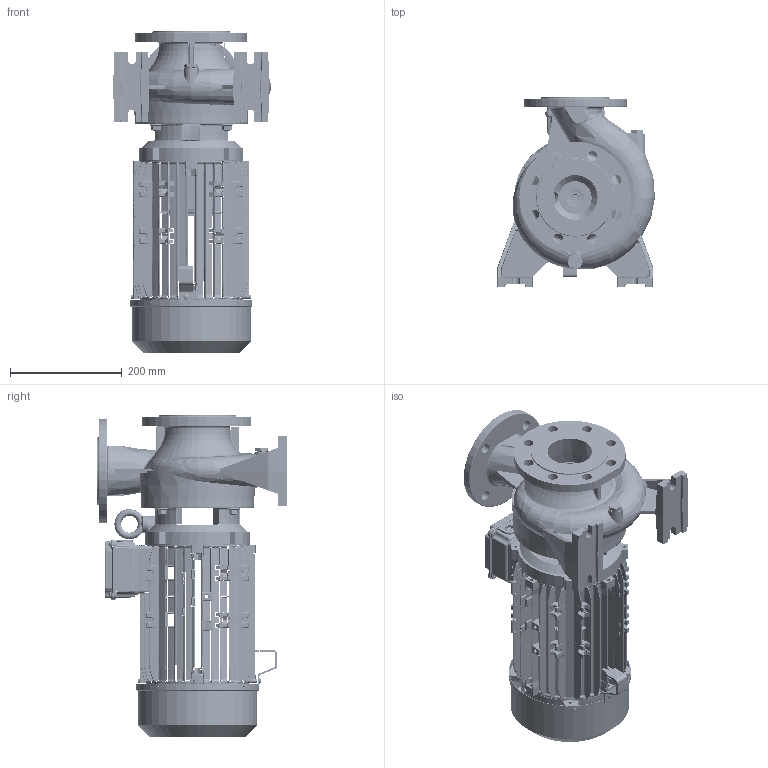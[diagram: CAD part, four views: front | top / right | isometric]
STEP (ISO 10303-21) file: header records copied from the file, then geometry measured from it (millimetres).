
FILE_DESCRIPTION (( 'STEP AP203' ), '1' );
FILE_NAME ('CN 65-125.STEP', '2020-03-05T15:47:05', ( '' ), ( '' ), 'SwSTEP 2.0', 'SolidWorks 2019', '' );
FILE_SCHEMA (( 'CONFIG_CONTROL_DESIGN' ));
Products named in the file (2): CN 65-125
Bounding box: 282.72 x 340 x 576.5 mm (x, y, z)
Surface area: 1093057.9 mm2 (no closed solid volume)
Topology: 0 solids, 75 shells, 5251 faces, 18210 edges, 12275 vertices
Faces by surface type: plane 1683, bspline 1605, cylinder 1520, cone 276, torus 143, sphere 24
Entity records: 302950 total; most frequent: CARTESIAN_POINT 168935, ORIENTED_EDGE 27867, DIRECTION 22614, EDGE_CURVE 18151, VERTEX_POINT 12275, AXIS2_PLACEMENT_3D 7736, LINE 7142, VECTOR 7142
